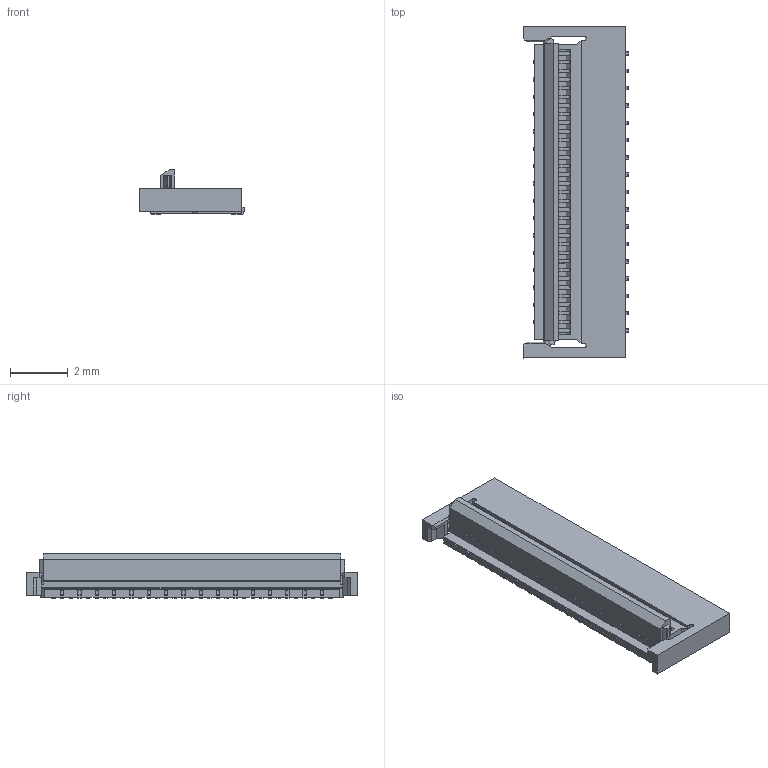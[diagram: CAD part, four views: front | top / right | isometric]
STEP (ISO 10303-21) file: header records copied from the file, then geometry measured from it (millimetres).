
FILE_DESCRIPTION (( 'STEP AP214' ), '1' );
FILE_NAME ('04_6293_633_105_468+.STEP', '2026-04-20T06:25:32', ( '' ), ( '' ), 'SwSTEP 2.0', 'SolidWorks 2023', '' );
FILE_SCHEMA (( 'AUTOMOTIVE_DESIGN' ));
Length unit declared in the file: millimetre
Products named in the file (1): 04_6293_633_105_468+
Bounding box: 3.65 x 11.5 x 1.54 mm (x, y, z)
Volume: 25.9 mm3; surface area: 172.8 mm2
Topology: 1 solids, 1 shells, 652 faces, 1932 edges, 1254 vertices
Faces by surface type: plane 519, bspline 133
Entity records: 22477 total; most frequent: CARTESIAN_POINT 7121, ORIENTED_EDGE 3864, DIRECTION 2210, EDGE_CURVE 1932, VERTEX_POINT 1254, LINE 1170, VECTOR 1170, EDGE_LOOP 688
